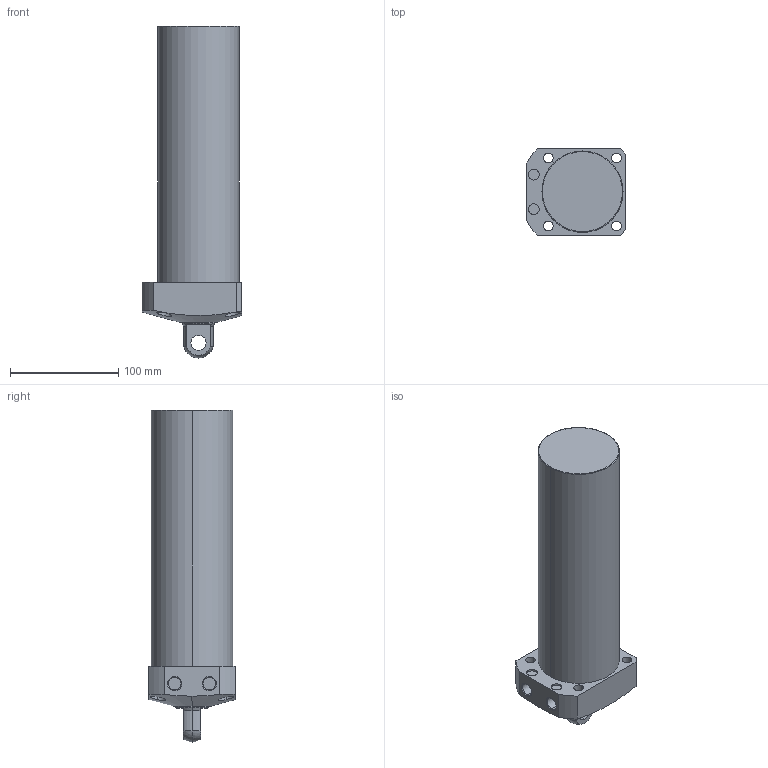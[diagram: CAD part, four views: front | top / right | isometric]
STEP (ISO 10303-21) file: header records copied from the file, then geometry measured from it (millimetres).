
FILE_DESCRIPTION (( 'STEP AP203' ), '1' );
FILE_NAME ('CLL-075CP-200.STEP', '2019-12-25T08:07:30', ( '' ), ( '' ), 'SwSTEP 2.0', 'SolidWorks 2015', '' );
FILE_SCHEMA (( 'CONFIG_CONTROL_DESIGN' ));
Length unit declared in the file: millimetre
Products named in the file (1): CLL-075CP-200
Bounding box: 92 x 80 x 307 mm (x, y, z)
Volume: 1274475.8 mm3; surface area: 87745.5 mm2
Topology: 1 solids, 1 shells, 68 faces, 159 edges, 103 vertices
Faces by surface type: cylinder 35, plane 21, cone 8, sphere 2, torus 2
Entity records: 2459 total; most frequent: CARTESIAN_POINT 762, DIRECTION 357, ORIENTED_EDGE 318, EDGE_CURVE 159, AXIS2_PLACEMENT_3D 149, VERTEX_POINT 103, EDGE_LOOP 88, CIRCLE 80
